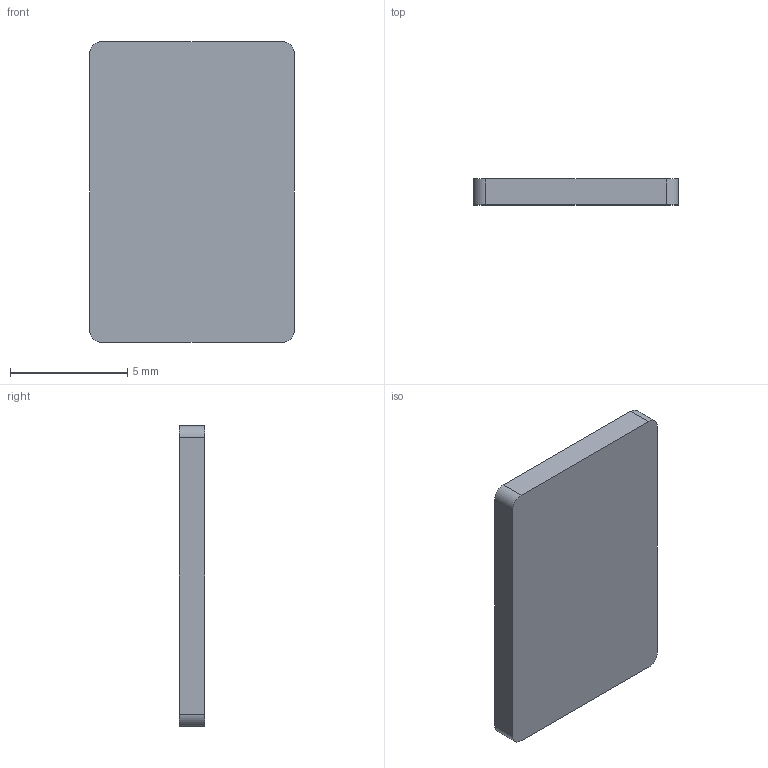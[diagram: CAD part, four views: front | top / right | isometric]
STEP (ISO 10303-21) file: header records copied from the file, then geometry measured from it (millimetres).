
FILE_DESCRIPTION (( 'STEP AP203' ), '1' );
FILE_NAME ('9361053002.STEP', '2022-11-09T13:58:44', ( '' ), ( '' ), 'SwSTEP 2.0', 'SolidWorks 2022', '' );
FILE_SCHEMA (( 'CONFIG_CONTROL_DESIGN' ));
Length unit declared in the file: inch
Products named in the file (1): 9361053002
Bounding box: 8.71 x 1.09 x 12.8 mm (x, y, z)
Volume: 121.6 mm3; surface area: 268.7 mm2
Topology: 1 solids, 1 shells, 10 faces, 24 edges, 16 vertices
Faces by surface type: plane 6, cylinder 4
Entity records: 375 total; most frequent: DIRECTION 54, CARTESIAN_POINT 51, ORIENTED_EDGE 48, EDGE_CURVE 24, AXIS2_PLACEMENT_3D 19, LINE 16, VECTOR 16, VERTEX_POINT 16
